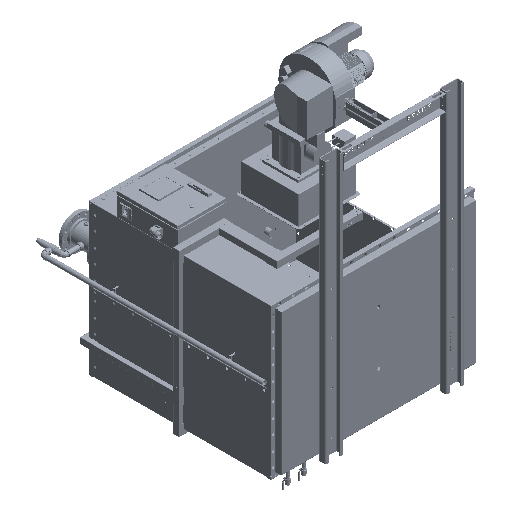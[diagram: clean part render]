
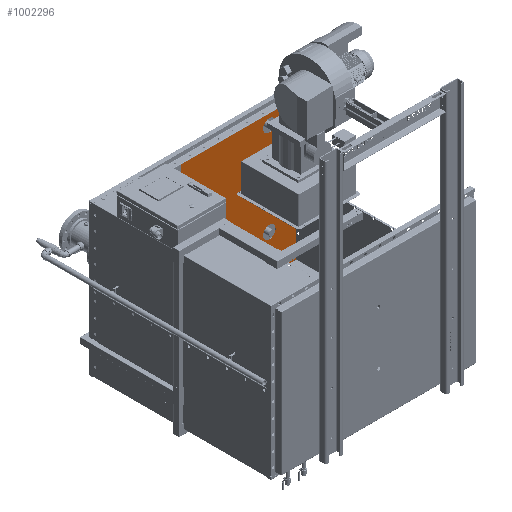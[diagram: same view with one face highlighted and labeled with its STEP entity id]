
A CAD part, isometric view. The second image highlights one B-rep face of the part: STEP entity #1002296.
In plain terms, the highlighted planar face has unit normal (0, -1, 0).
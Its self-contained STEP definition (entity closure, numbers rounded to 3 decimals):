
#6879 = CARTESIAN_POINT ( 'NONE',  ( 737.5, 1., -777. ) ) ;
#29909 = CARTESIAN_POINT ( 'NONE',  ( 786.5, 1., 216. ) ) ;
#29910 = EDGE_CURVE ( 'NONE', #174501, #255946, #941408, .T. ) ;
#38017 = DIRECTION ( 'NONE',  ( 0., -1., 0. ) ) ;
#44048 = DIRECTION ( 'NONE',  ( 1., 0., 0. ) ) ;
#46181 = DIRECTION ( 'NONE',  ( 1., 0., 0. ) ) ;
#53148 = EDGE_CURVE ( 'NONE', #1027522, #249681, #689430, .T. ) ;
#68271 = VERTEX_POINT ( 'NONE', #175372 ) ;
#80973 = CARTESIAN_POINT ( 'NONE',  ( 782., 1., -1077.5 ) ) ;
#83561 = AXIS2_PLACEMENT_3D ( 'NONE', #1154445, #1062707, #316554 ) ;
#93356 = CARTESIAN_POINT ( 'NONE',  ( 667.5, 1., -777. ) ) ;
#96584 = CIRCLE ( 'NONE', #408892, 140. ) ;
#113488 = ORIENTED_EDGE ( 'NONE', *, *, #841660, .F. ) ;
#126569 = DIRECTION ( 'NONE',  ( 1., 0., 0. ) ) ;
#133713 = AXIS2_PLACEMENT_3D ( 'NONE', #93356, #276815, #747740 ) ;
#136982 = EDGE_CURVE ( 'NONE', #199979, #377845, #680403, .T. ) ;
#159648 = ORIENTED_EDGE ( 'NONE', *, *, #566506, .T. ) ;
#163019 = EDGE_CURVE ( 'NONE', #330346, #68271, #96584, .T. ) ;
#174501 = VERTEX_POINT ( 'NONE', #214396 ) ;
#175372 = CARTESIAN_POINT ( 'NONE',  ( -578.5, 1., -241.66 ) ) ;
#178044 = CIRCLE ( 'NONE', #822322, 70. ) ;
#191111 = VERTEX_POINT ( 'NONE', #858580 ) ;
#199979 = VERTEX_POINT ( 'NONE', #6879 ) ;
#201703 = DIRECTION ( 'NONE',  ( -1., 0., 0. ) ) ;
#206657 = VECTOR ( 'NONE', #964431, 1000. ) ;
#214396 = CARTESIAN_POINT ( 'NONE',  ( -782., 1., 216. ) ) ;
#229201 = CARTESIAN_POINT ( 'NONE',  ( -784.146, 1., -1077.5 ) ) ;
#241259 = EDGE_CURVE ( 'NONE', #191111, #330346, #501848, .T. ) ;
#248479 = LINE ( 'NONE', #541830, #928303 ) ;
#249681 = VERTEX_POINT ( 'NONE', #486375 ) ;
#255946 = VERTEX_POINT ( 'NONE', #986971 ) ;
#275096 = AXIS2_PLACEMENT_3D ( 'NONE', #854682, #487524, #126569 ) ;
#276815 = DIRECTION ( 'NONE',  ( 0., -1., 0. ) ) ;
#292102 = LINE ( 'NONE', #854739, #206657 ) ;
#293491 = CARTESIAN_POINT ( 'NONE',  ( 786.5, 1., 38.34 ) ) ;
#309396 = DIRECTION ( 'NONE',  ( 0., -1., 0. ) ) ;
#316554 = DIRECTION ( 'NONE',  ( 1., 0., 0. ) ) ;
#322066 = VECTOR ( 'NONE', #1124908, 1000. ) ;
#323837 = CARTESIAN_POINT ( 'NONE',  ( -508.5, 1., -241.66 ) ) ;
#330346 = VERTEX_POINT ( 'NONE', #466294 ) ;
#331960 = ORIENTED_EDGE ( 'NONE', *, *, #53148, .F. ) ;
#353661 = CIRCLE ( 'NONE', #490745, 70. ) ;
#357992 = CARTESIAN_POINT ( 'NONE',  ( -578.5, 1., -101.66 ) ) ;
#377845 = VERTEX_POINT ( 'NONE', #1004871 ) ;
#385421 = VERTEX_POINT ( 'NONE', #80973 ) ;
#391103 = EDGE_CURVE ( 'NONE', #249681, #1027522, #353661, .T. ) ;
#394558 = DIRECTION ( 'NONE',  ( 0., -1., 0. ) ) ;
#407584 = ORIENTED_EDGE ( 'NONE', *, *, #443463, .T. ) ;
#408892 = AXIS2_PLACEMENT_3D ( 'NONE', #357992, #547529, #731165 ) ;
#413716 = ORIENTED_EDGE ( 'NONE', *, *, #1179397, .T. ) ;
#428704 = CARTESIAN_POINT ( 'NONE',  ( -782., 1., -1077.5 ) ) ;
#442920 = ORIENTED_EDGE ( 'NONE', *, *, #29910, .F. ) ;
#443463 = EDGE_CURVE ( 'NONE', #174501, #975573, #248479, .T. ) ;
#452897 = CARTESIAN_POINT ( 'NONE',  ( 667.5, 1., -777. ) ) ;
#453591 = EDGE_CURVE ( 'NONE', #597367, #707301, #1017316, .T. ) ;
#462794 = EDGE_LOOP ( 'NONE', ( #331960, #1064955 ) ) ;
#466294 = CARTESIAN_POINT ( 'NONE',  ( -718.5, 1., -101.66 ) ) ;
#468029 = CARTESIAN_POINT ( 'NONE',  ( 782., 1., -1079.646 ) ) ;
#486375 = CARTESIAN_POINT ( 'NONE',  ( -296.5, 1., -777. ) ) ;
#487524 = DIRECTION ( 'NONE',  ( 0., -1., 0. ) ) ;
#490745 = AXIS2_PLACEMENT_3D ( 'NONE', #1073483, #309396, #46181 ) ;
#500750 = CARTESIAN_POINT ( 'NONE',  ( -436.5, 1., -777. ) ) ;
#501848 = CIRCLE ( 'NONE', #893040, 140. ) ;
#502659 = PLANE ( 'NONE',  #1180831 ) ;
#538490 = ORIENTED_EDGE ( 'NONE', *, *, #970951, .F. ) ;
#541830 = CARTESIAN_POINT ( 'NONE',  ( -782., 1., 1079.646 ) ) ;
#547529 = DIRECTION ( 'NONE',  ( 0., -1., 0. ) ) ;
#566506 = EDGE_CURVE ( 'NONE', #975573, #385421, #779793, .T. ) ;
#594440 = FACE_BOUND ( 'NONE', #1164942, .T. ) ;
#597367 = VERTEX_POINT ( 'NONE', #323837 ) ;
#598444 = VECTOR ( 'NONE', #1152853, 1000. ) ;
#606466 = FACE_OUTER_BOUND ( 'NONE', #1147977, .T. ) ;
#676797 = ORIENTED_EDGE ( 'NONE', *, *, #958203, .F. ) ;
#680403 = CIRCLE ( 'NONE', #133713, 70. ) ;
#689430 = CIRCLE ( 'NONE', #83561, 70. ) ;
#707301 = VERTEX_POINT ( 'NONE', #804147 ) ;
#712752 = VECTOR ( 'NONE', #201703, 1000. ) ;
#731165 = DIRECTION ( 'NONE',  ( 1., 0., 0. ) ) ;
#737528 = DIRECTION ( 'NONE',  ( 0., 0., -1. ) ) ;
#747740 = DIRECTION ( 'NONE',  ( 1., 0., 0. ) ) ;
#779793 = LINE ( 'NONE', #229201, #598444 ) ;
#782371 = ORIENTED_EDGE ( 'NONE', *, *, #163019, .F. ) ;
#804147 = CARTESIAN_POINT ( 'NONE',  ( -508.5, 1., 38.34 ) ) ;
#822322 = AXIS2_PLACEMENT_3D ( 'NONE', #452897, #1198996, #1174885 ) ;
#831031 = ORIENTED_EDGE ( 'NONE', *, *, #241259, .F. ) ;
#841660 = EDGE_CURVE ( 'NONE', #68271, #597367, #292102, .T. ) ;
#845072 = VECTOR ( 'NONE', #920878, 1000. ) ;
#847209 = LINE ( 'NONE', #468029, #845072 ) ;
#849395 = ORIENTED_EDGE ( 'NONE', *, *, #136982, .F. ) ;
#854682 = CARTESIAN_POINT ( 'NONE',  ( -508.5, 1., -101.66 ) ) ;
#854739 = CARTESIAN_POINT ( 'NONE',  ( 786.5, 1., -241.66 ) ) ;
#856154 = LINE ( 'NONE', #293491, #712752 ) ;
#858580 = CARTESIAN_POINT ( 'NONE',  ( -578.5, 1., 38.34 ) ) ;
#865499 = DIRECTION ( 'NONE',  ( 1., 0., 0. ) ) ;
#875840 = FACE_BOUND ( 'NONE', #462794, .T. ) ;
#893040 = AXIS2_PLACEMENT_3D ( 'NONE', #1054986, #394558, #865499 ) ;
#920878 = DIRECTION ( 'NONE',  ( 0., 0., 1. ) ) ;
#928303 = VECTOR ( 'NONE', #737528, 1000. ) ;
#941408 = LINE ( 'NONE', #29909, #322066 ) ;
#958203 = EDGE_CURVE ( 'NONE', #707301, #191111, #856154, .T. ) ;
#964431 = DIRECTION ( 'NONE',  ( 1., 0., 0. ) ) ;
#967486 = FACE_BOUND ( 'NONE', #1195665, .T. ) ;
#970951 = EDGE_CURVE ( 'NONE', #377845, #199979, #178044, .T. ) ;
#975573 = VERTEX_POINT ( 'NONE', #428704 ) ;
#986971 = CARTESIAN_POINT ( 'NONE',  ( 782., 1., 216. ) ) ;
#991617 = CARTESIAN_POINT ( 'NONE',  ( 786.5, 1., 1082. ) ) ;
#1002296 = ADVANCED_FACE ( 'NONE', ( #606466, #594440, #875840, #967486 ), #502659, .T. ) ;
#1004871 = CARTESIAN_POINT ( 'NONE',  ( 597.5, 1., -777. ) ) ;
#1017316 = CIRCLE ( 'NONE', #275096, 140. ) ;
#1027522 = VERTEX_POINT ( 'NONE', #500750 ) ;
#1054986 = CARTESIAN_POINT ( 'NONE',  ( -578.5, 1., -101.66 ) ) ;
#1062707 = DIRECTION ( 'NONE',  ( 0., -1., 0. ) ) ;
#1064955 = ORIENTED_EDGE ( 'NONE', *, *, #391103, .F. ) ;
#1073483 = CARTESIAN_POINT ( 'NONE',  ( -366.5, 1., -777. ) ) ;
#1111313 = ORIENTED_EDGE ( 'NONE', *, *, #453591, .F. ) ;
#1124908 = DIRECTION ( 'NONE',  ( 1., 0., 0. ) ) ;
#1147977 = EDGE_LOOP ( 'NONE', ( #442920, #407584, #159648, #413716 ) ) ;
#1152853 = DIRECTION ( 'NONE',  ( 1., 0., 0. ) ) ;
#1154445 = CARTESIAN_POINT ( 'NONE',  ( -366.5, 1., -777. ) ) ;
#1164942 = EDGE_LOOP ( 'NONE', ( #538490, #849395 ) ) ;
#1174885 = DIRECTION ( 'NONE',  ( 1., 0., 0. ) ) ;
#1179397 = EDGE_CURVE ( 'NONE', #385421, #255946, #847209, .T. ) ;
#1180831 = AXIS2_PLACEMENT_3D ( 'NONE', #991617, #38017, #44048 ) ;
#1195665 = EDGE_LOOP ( 'NONE', ( #831031, #676797, #1111313, #113488, #782371 ) ) ;
#1198996 = DIRECTION ( 'NONE',  ( 0., -1., 0. ) ) ;
